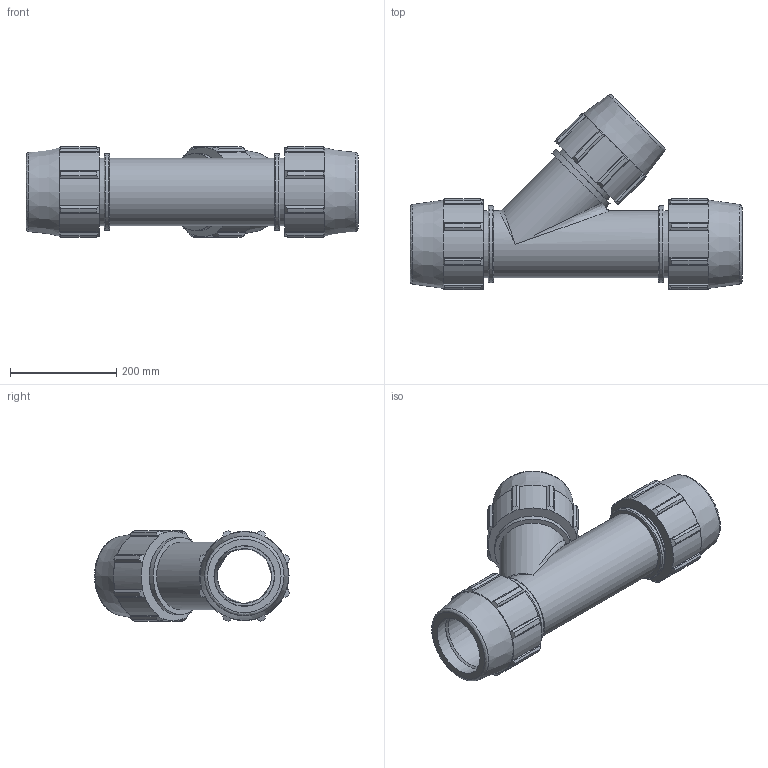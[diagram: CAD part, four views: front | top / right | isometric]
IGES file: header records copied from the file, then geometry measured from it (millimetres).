
Global section: file name: 0764M0040.ipt; native system: Autodesk Inventor 2019; preprocessor: unknown; author: Кирилл,,11,0; organization: 20170224.180708; date: 20210826.124903; units: inch
Bounding box: 625.09 x 367.32 x 170.4 mm (x, y, z)
Volume: 6215827.4 mm3; surface area: 778092.1 mm2
Topology: 1 solids, 1 shells, 221 faces, 636 edges, 425 vertices
Faces by surface type: plane 115, cylinder 57, cone 30, revolution 17, bspline 2
Full cylindrical faces by diameter (mm): 126.771 x4, 144.882 x3
